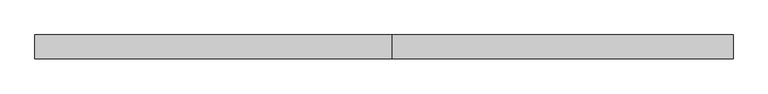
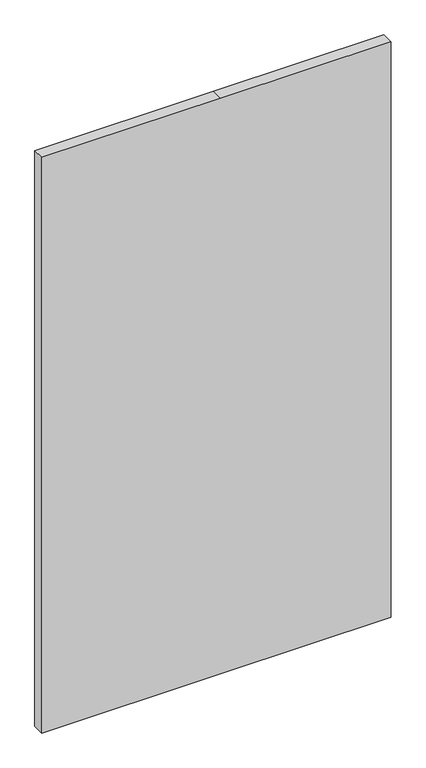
"""IFC4 building model written with IfcOpenShell, lengths in millimetres: plate geometry, Panneau système : Vitre 4cm."""

import ifcopenshell
import ifcopenshell.guid

model = None  # the IFC model being written
_history = None  # IfcOwnerHistory: only IFC2X3 demands one
_inside = {}  # id of a spatial element -> (the spatial element, [elements in it])
_under = {}  # id of a project, library or spatial element -> (it, [spatial elements below it])
_declared = {}  # id of a project -> (the project, [libraries it declares])
_typed = {}  # id of a type object -> (the type object, [elements of that type])
_made_of = {}  # id of a material, layer set ... -> (it, [elements and type objects made of it])


def new_model(schema):
    """Start an empty IFC model of exactly this schema.

    Asked for "IFC4X3", IfcOpenShell would pick the latest addendum, in which some entities
    have other attributes; the version numbers below select the first issue.
    IFC2X3 requires an IfcOwnerHistory on every rooted entity: one is made here for all.
    """
    global model, _history
    if schema == "IFC4X3":
        model = ifcopenshell.file(schema_version=(4, 3, 0, 0))
    else:
        model = ifcopenshell.file(schema=schema)
    _inside.clear()
    _under.clear()
    _declared.clear()
    _typed.clear()
    _made_of.clear()
    _history = None
    if model.schema == "IFC2X3":
        org = make("IfcOrganization", Name="unknown")
        user = make(
            "IfcPersonAndOrganization",
            ThePerson=make("IfcPerson", FamilyName="unknown"),
            TheOrganization=org,
        )
        app = make(
            "IfcApplication",
            ApplicationDeveloper=org,
            Version="unknown",
            ApplicationFullName="unknown",
            ApplicationIdentifier="unknown",
        )
        _history = make(
            "IfcOwnerHistory",
            OwningUser=user,
            OwningApplication=app,
            ChangeAction="ADDED",
            CreationDate=0,
        )
    return model


def make(cls, **values):
    """One entity of the class cls with the attributes given. An attribute that is None is left unset."""
    return model.create_entity(
        cls, **{name: value for name, value in values.items() if value is not None}
    )


def rooted(cls, **values):
    """An entity with a GlobalId (a new one), such as an element, a storey or a relation."""
    return make(cls, GlobalId=ifcopenshell.guid.new(), OwnerHistory=_history, **values)


def si_unit(unit_type, name, prefix=None):
    """IfcSIUnit, for example si_unit("LENGTHUNIT", "METRE", prefix="MILLI")."""
    return make("IfcSIUnit", UnitType=unit_type, Prefix=prefix, Name=name)


def assignment(units):
    """IfcUnitAssignment: the units of a project."""
    return None if units is None else make("IfcUnitAssignment", Units=units)


def point(xyz):
    """IfcCartesianPoint."""
    return None if xyz is None else make("IfcCartesianPoint", Coordinates=xyz)


def direction(xyz):
    """IfcDirection."""
    return None if xyz is None else make("IfcDirection", DirectionRatios=xyz)


def frame(location, z_axis=None, x_axis=None):
    """IfcAxis2Placement3D, a coordinate frame: its origin and axes. An axis left out is left unset."""
    return make(
        "IfcAxis2Placement3D",
        Location=point(location),
        Axis=direction(z_axis),
        RefDirection=direction(x_axis),
    )


def origin():
    """The frame at (0, 0, 0) with its axes left unset."""
    return frame((0.0, 0.0, 0.0))


def place(relative_to, where):
    """IfcLocalPlacement: puts the frame where relative to a parent placement (None: the world)."""
    return make(
        "IfcLocalPlacement", PlacementRelTo=relative_to, RelativePlacement=where
    )


def context(
    kind, dimensions, precision=None, world=None, true_north=None, identifier=None
):
    """IfcGeometricRepresentationContext, for example the 3D "Model" context."""
    return make(
        "IfcGeometricRepresentationContext",
        ContextIdentifier=identifier,
        ContextType=kind,
        CoordinateSpaceDimension=dimensions,
        Precision=precision,
        WorldCoordinateSystem=world,
        TrueNorth=true_north,
    )


def project(units=None, contexts=None):
    """IfcProject with its units and contexts."""
    return rooted(
        "IfcProject",
        Name="project",
        RepresentationContexts=contexts,
        UnitsInContext=assignment(units),
    )


def spatial(cls, under=None, at=None, **own):
    """A site, building, storey or space (cls), placed at a placement, below another one or the project."""
    s = rooted(cls, ObjectPlacement=at, **own)
    if under is not None:
        _under.setdefault(under.id(), (under, []))[1].append(s)
    return s


def polyline(points):
    """IfcPolyline through the points."""
    return make("IfcPolyline", Points=[point(p) for p in points])


def outline(outer, holes=None, kind="AREA"):
    """IfcArbitraryClosedProfileDef: a profile drawn as a closed curve; with holes, ...WithVoids."""
    if holes is None:
        return make("IfcArbitraryClosedProfileDef", ProfileType=kind, OuterCurve=outer)
    return make(
        "IfcArbitraryProfileDefWithVoids",
        ProfileType=kind,
        OuterCurve=outer,
        InnerCurves=holes,
    )


def extrude(swept, where, along, depth):
    """IfcExtrudedAreaSolid: the profile swept, set in the frame where, extruded along a direction by depth."""
    return make(
        "IfcExtrudedAreaSolid",
        SweptArea=swept,
        Position=where,
        ExtrudedDirection=direction(along),
        Depth=depth,
    )


def shape(context_of_items, identifier, shape_type, items):
    """IfcShapeRepresentation: the items that make up one representation, for example the "Body"."""
    return make(
        "IfcShapeRepresentation",
        ContextOfItems=context_of_items,
        RepresentationIdentifier=identifier,
        RepresentationType=shape_type,
        Items=items,
    )


def source(mapping_origin, context_of_items, identifier, shape_type, items):
    """IfcRepresentationMap: a shape defined once, which mapped items show again and again."""
    return make(
        "IfcRepresentationMap",
        MappingOrigin=mapping_origin,
        MappedRepresentation=shape(context_of_items, identifier, shape_type, items),
    )


def transform(
    local_origin,
    x_axis=None,
    y_axis=None,
    z_axis=None,
    scale=None,
    scale2=None,
    scale3=None,
    uniform=True,
):
    """IfcCartesianTransformationOperator3D, or its non-uniform kind. x_axis, y_axis, z_axis: its Axis1, 2, 3."""
    if uniform:
        return make(
            "IfcCartesianTransformationOperator3D",
            Axis1=direction(x_axis),
            Axis2=direction(y_axis),
            LocalOrigin=point(local_origin),
            Scale=scale,
            Axis3=direction(z_axis),
        )
    return make(
        "IfcCartesianTransformationOperator3DnonUniform",
        Axis1=direction(x_axis),
        Axis2=direction(y_axis),
        LocalOrigin=point(local_origin),
        Scale=scale,
        Axis3=direction(z_axis),
        Scale2=scale2,
        Scale3=scale3,
    )


def mapped(mapping_source, mapping_target):
    """IfcMappedItem: shows the shape of a source again, moved by a transform."""
    return make(
        "IfcMappedItem", MappingSource=mapping_source, MappingTarget=mapping_target
    )


def made_of(thing, what):
    """Note that an element or type object is made of a material, layer set ...; save() writes the relation."""
    if what is not None:
        _made_of.setdefault(what.id(), (what, []))[1].append(thing)
    return thing


def element(
    cls,
    number,
    at=None,
    inside=None,
    cuts=None,
    type_object=None,
    material=None,
    context=None,
    identifier="Body",
    shape_type=None,
    held_by="IfcProductDefinitionShape",
    body=None,
    shapes=None,
    **own,
):
    """One element of the class cls, such as IfcWall. Its Tag is "e" and its number.

    at: its placement. inside: the storey or other place that contains it. cuts: it is an
    opening in that element (IfcRelVoidsElement). A single representation is given by context,
    identifier, shape_type and body (its items); several are given by shapes. held_by: the class
    of the entity that holds the representations. save() writes the other relations.
    """
    e = rooted(cls, Tag="e%d" % number, ObjectPlacement=at, **own)
    if body is not None:
        shapes = [shape(context, identifier, shape_type, body)]
    if shapes is not None:
        e.Representation = make(held_by, Representations=shapes)
    if inside is not None:
        _inside.setdefault(inside.id(), (inside, []))[1].append(e)
    if cuts is not None:
        rooted(
            "IfcRelVoidsElement", RelatingBuildingElement=cuts, RelatedOpeningElement=e
        )
    if type_object is not None:
        _typed.setdefault(type_object.id(), (type_object, []))[1].append(e)
    return made_of(e, material)


def aggregate(whole, parts):
    """IfcRelAggregates: a whole, such as a stair, and the parts it consists of."""
    return rooted("IfcRelAggregates", RelatingObject=whole, RelatedObjects=parts)


def save(model, path):
    """Write the relations noted so far, then the file.

    IfcRelAggregates (storeys below a building ...), IfcRelContainedInSpatialStructure (elements
    in a storey), IfcRelDefinesByType, IfcRelAssociatesMaterial and IfcRelDeclares: one each for
    every whole, place, type object, material and project.
    """
    for whole, parts in _under.values():
        aggregate(whole, parts)
    for where, things in _inside.values():
        rooted(
            "IfcRelContainedInSpatialStructure",
            RelatedElements=things,
            RelatingStructure=where,
        )
    for kind, things in _typed.values():
        rooted("IfcRelDefinesByType", RelatedObjects=things, RelatingType=kind)
    for what, things in _made_of.values():
        rooted("IfcRelAssociatesMaterial", RelatedObjects=things, RelatingMaterial=what)
    for by, libraries in _declared.values():
        rooted("IfcRelDeclares", RelatingContext=by, RelatedDefinitions=libraries)
    model.write(path)


def plate_945f2031(model_context):
    return source(origin(), model_context, "Body", "SweptSolid", [
        extrude(outline(polyline([(0.0, -588.8255909), (0.0, 13.8255909), (0.0, 588.8255909), (2050.0, 588.8255909), (2050.0, 13.8255909), (2050.0, -588.8255909), (0.0, -588.8255909)])), frame((0.0, -20.0, 0.0), z_axis=(0.0, 1.0, 0.0), x_axis=(0.0, 0.0, 1.0)), (0.0, 0.0, 1.0), 40.0),
    ])


if __name__ == "__main__":
    model = new_model("IFC4")
    model_context = context("Model", 3, world=origin())
    ifc_project = project(units=[si_unit("LENGTHUNIT", "METRE", prefix="MILLI")], contexts=[model_context])
    site = spatial("IfcSite", under=ifc_project)
    building = spatial("IfcBuilding", under=site)
    placement = place(None, origin())
    plate_shape = plate_945f2031(model_context)
    element("IfcPlate", 1, ObjectType="Panneau système : Vitre 4cm", at=placement, inside=building, context=model_context, shape_type="MappedRepresentation", body=[
        mapped(plate_shape, transform((0.0, 0.0, 0.0), x_axis=(1.0, 0.0, 0.0), y_axis=(0.0, 1.0, 0.0), z_axis=(0.0, 0.0, 1.0))),
    ])
    save(model, "model.ifc")
